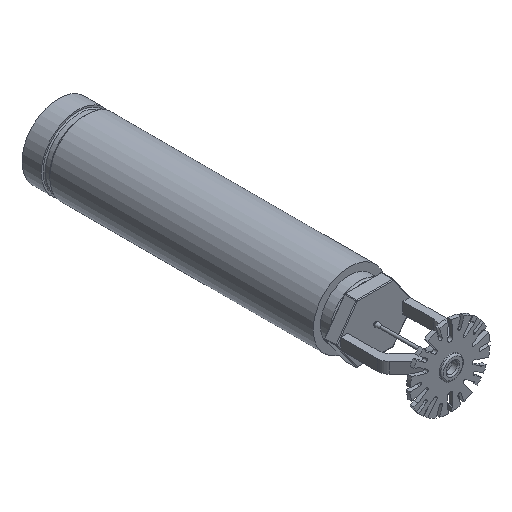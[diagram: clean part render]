
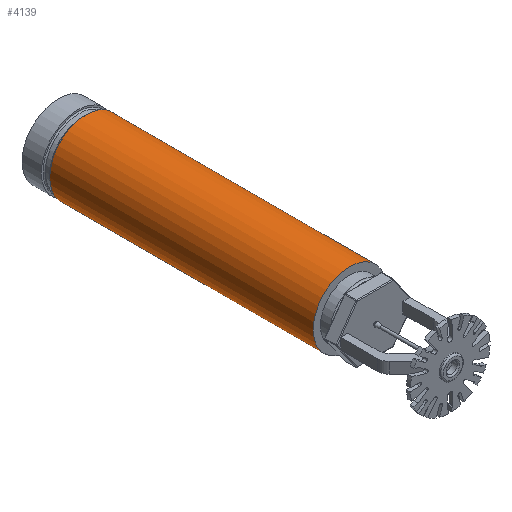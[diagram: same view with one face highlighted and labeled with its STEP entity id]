
A CAD part, isometric view. The second image highlights one B-rep face of the part: STEP entity #4139.
In plain terms, the highlighted cylindrical face has radius 16.701 mm (diameter 33.401 mm), a full revolution.
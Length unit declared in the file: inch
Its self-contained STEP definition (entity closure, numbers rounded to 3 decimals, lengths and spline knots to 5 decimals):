
#88=LINE('',#6165,#432);
#432=VECTOR('',#4917,0.6575);
#775=CYLINDRICAL_SURFACE('',#4432,0.6575);
#881=FACE_OUTER_BOUND('',#1108,.T.);
#1108=EDGE_LOOP('',(#2603,#2604,#2605,#2606,#2607,#2608));
#1349=CIRCLE('',#4430,0.6575);
#1350=CIRCLE('',#4431,0.6575);
#1351=CIRCLE('',#4433,0.6575);
#1352=CIRCLE('',#4434,0.6575);
#1577=VERTEX_POINT('',#6155);
#1578=VERTEX_POINT('',#6156);
#1579=VERTEX_POINT('',#6161);
#1580=VERTEX_POINT('',#6162);
#1975=EDGE_CURVE('',#1577,#1578,#1349,.T.);
#1976=EDGE_CURVE('',#1578,#1577,#1350,.T.);
#1978=EDGE_CURVE('',#1579,#1580,#1351,.T.);
#1979=EDGE_CURVE('',#1580,#1579,#1352,.T.);
#1980=EDGE_CURVE('',#1580,#1577,#88,.T.);
#2603=ORIENTED_EDGE('',*,*,#1978,.F.);
#2604=ORIENTED_EDGE('',*,*,#1979,.F.);
#2605=ORIENTED_EDGE('',*,*,#1980,.T.);
#2606=ORIENTED_EDGE('',*,*,#1975,.T.);
#2607=ORIENTED_EDGE('',*,*,#1976,.T.);
#2608=ORIENTED_EDGE('',*,*,#1980,.F.);
#4139=ADVANCED_FACE('',(#881),#775,.T.);
#4430=AXIS2_PLACEMENT_3D('',#6157,#4906,#4907);
#4431=AXIS2_PLACEMENT_3D('',#6158,#4908,#4909);
#4432=AXIS2_PLACEMENT_3D('',#6160,#4911,#4912);
#4433=AXIS2_PLACEMENT_3D('',#6163,#4913,#4914);
#4434=AXIS2_PLACEMENT_3D('',#6164,#4915,#4916);
#4906=DIRECTION('center_axis',(0.,-1.,0.));
#4907=DIRECTION('ref_axis',(-1.,0.,0.));
#4908=DIRECTION('center_axis',(0.,-1.,0.));
#4909=DIRECTION('ref_axis',(-1.,0.,0.));
#4911=DIRECTION('center_axis',(0.,-1.,0.));
#4912=DIRECTION('ref_axis',(-1.,0.,0.));
#4913=DIRECTION('center_axis',(0.,-1.,0.));
#4914=DIRECTION('ref_axis',(1.,0.,0.));
#4915=DIRECTION('center_axis',(0.,-1.,0.));
#4916=DIRECTION('ref_axis',(1.,0.,0.));
#4917=DIRECTION('',(0.,1.,0.));
#6155=CARTESIAN_POINT('',(0.6575,6.6125,0.));
#6156=CARTESIAN_POINT('',(-0.6575,6.6125,0.));
#6157=CARTESIAN_POINT('Origin',(0.,6.6125,0.));
#6158=CARTESIAN_POINT('Origin',(0.,6.6125,0.));
#6160=CARTESIAN_POINT('Origin',(0.,4.4875,0.));
#6161=CARTESIAN_POINT('',(-0.6575,1.8625,0.));
#6162=CARTESIAN_POINT('',(0.6575,1.8625,0.));
#6163=CARTESIAN_POINT('Origin',(0.,1.8625,0.));
#6164=CARTESIAN_POINT('Origin',(0.,1.8625,0.));
#6165=CARTESIAN_POINT('',(0.6575,4.4875,0.));
